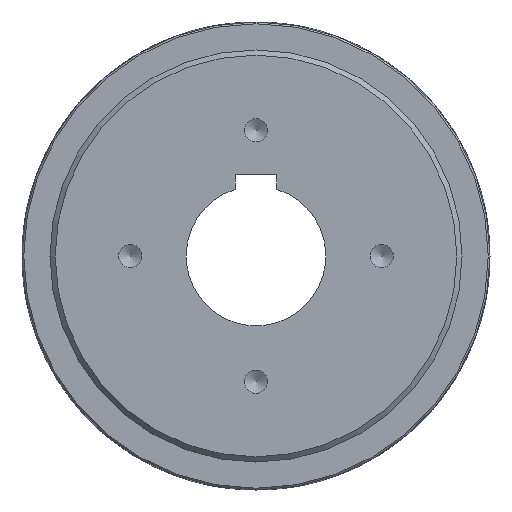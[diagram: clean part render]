
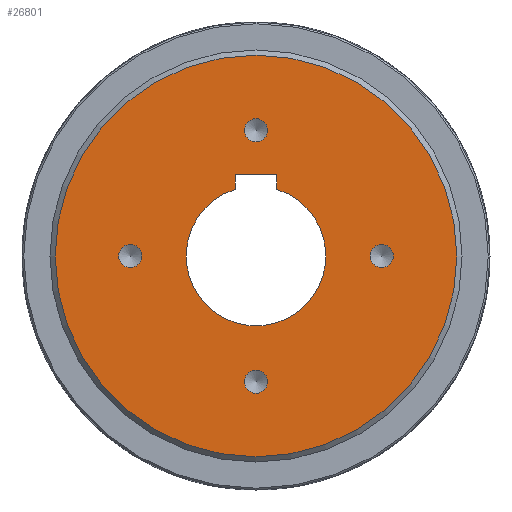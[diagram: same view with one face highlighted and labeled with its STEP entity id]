
A CAD part, left-side view. The second image highlights one B-rep face of the part: STEP entity #26801.
In plain terms, the highlighted planar face has unit normal (-1, 0, 0).
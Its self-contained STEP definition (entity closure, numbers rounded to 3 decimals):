
#1825=FACE_BOUND('',#7944,.T.);
#1826=FACE_BOUND('',#7945,.T.);
#1827=FACE_BOUND('',#7946,.T.);
#1828=FACE_BOUND('',#7947,.T.);
#1829=FACE_BOUND('',#7948,.T.);
#2781=LINE('',#44697,#4387);
#2784=LINE('',#44703,#4390);
#2788=LINE('',#44713,#4394);
#4387=VECTOR('',#35767,10.);
#4390=VECTOR('',#35772,10.);
#4394=VECTOR('',#35784,10.);
#6505=FACE_OUTER_BOUND('',#7943,.T.);
#7943=EDGE_LOOP('',(#23991));
#7944=EDGE_LOOP('',(#23992,#23993,#23994,#23995));
#7945=EDGE_LOOP('',(#23996,#23997));
#7946=EDGE_LOOP('',(#23998,#23999));
#7947=EDGE_LOOP('',(#24000,#24001));
#7948=EDGE_LOOP('',(#24002,#24003));
#8412=CIRCLE('',#28885,20.);
#8757=CIRCLE('',#30753,57.5);
#8758=CIRCLE('',#30755,3.324);
#8759=CIRCLE('',#30756,3.324);
#8760=CIRCLE('',#30757,3.324);
#8761=CIRCLE('',#30758,3.324);
#8762=CIRCLE('',#30759,3.324);
#8763=CIRCLE('',#30760,3.324);
#8764=CIRCLE('',#30761,3.324);
#8765=CIRCLE('',#30762,3.324);
#10235=VERTEX_POINT('',#44694);
#10236=VERTEX_POINT('',#44696);
#10238=VERTEX_POINT('',#44702);
#10240=VERTEX_POINT('',#44708);
#11528=VERTEX_POINT('',#48809);
#11529=VERTEX_POINT('',#48813);
#11530=VERTEX_POINT('',#48814);
#11531=VERTEX_POINT('',#48817);
#11532=VERTEX_POINT('',#48818);
#11533=VERTEX_POINT('',#48821);
#11534=VERTEX_POINT('',#48822);
#11535=VERTEX_POINT('',#48825);
#11536=VERTEX_POINT('',#48826);
#13748=EDGE_CURVE('',#10236,#10235,#2781,.T.);
#13751=EDGE_CURVE('',#10238,#10236,#2784,.T.);
#13754=EDGE_CURVE('',#10240,#10238,#8412,.T.);
#13757=EDGE_CURVE('',#10235,#10240,#2788,.T.);
#15695=EDGE_CURVE('',#11528,#11528,#8757,.T.);
#15696=EDGE_CURVE('',#11529,#11530,#8758,.T.);
#15697=EDGE_CURVE('',#11530,#11529,#8759,.T.);
#15698=EDGE_CURVE('',#11531,#11532,#8760,.T.);
#15699=EDGE_CURVE('',#11532,#11531,#8761,.T.);
#15700=EDGE_CURVE('',#11533,#11534,#8762,.T.);
#15701=EDGE_CURVE('',#11534,#11533,#8763,.T.);
#15702=EDGE_CURVE('',#11535,#11536,#8764,.T.);
#15703=EDGE_CURVE('',#11536,#11535,#8765,.T.);
#23991=ORIENTED_EDGE('',*,*,#15695,.F.);
#23992=ORIENTED_EDGE('',*,*,#13754,.T.);
#23993=ORIENTED_EDGE('',*,*,#13751,.T.);
#23994=ORIENTED_EDGE('',*,*,#13748,.T.);
#23995=ORIENTED_EDGE('',*,*,#13757,.T.);
#23996=ORIENTED_EDGE('',*,*,#15696,.T.);
#23997=ORIENTED_EDGE('',*,*,#15697,.T.);
#23998=ORIENTED_EDGE('',*,*,#15698,.T.);
#23999=ORIENTED_EDGE('',*,*,#15699,.T.);
#24000=ORIENTED_EDGE('',*,*,#15700,.T.);
#24001=ORIENTED_EDGE('',*,*,#15701,.T.);
#24002=ORIENTED_EDGE('',*,*,#15702,.T.);
#24003=ORIENTED_EDGE('',*,*,#15703,.T.);
#25402=PLANE('',#30754);
#26801=ADVANCED_FACE('',(#6505,#1825,#1826,#1827,#1828,#1829),#25402,.T.);
#28885=AXIS2_PLACEMENT_3D('',#44709,#35778,#35779);
#30753=AXIS2_PLACEMENT_3D('',#48811,#40220,#40221);
#30754=AXIS2_PLACEMENT_3D('',#48812,#40222,#40223);
#30755=AXIS2_PLACEMENT_3D('',#48815,#40224,#40225);
#30756=AXIS2_PLACEMENT_3D('',#48816,#40226,#40227);
#30757=AXIS2_PLACEMENT_3D('',#48819,#40228,#40229);
#30758=AXIS2_PLACEMENT_3D('',#48820,#40230,#40231);
#30759=AXIS2_PLACEMENT_3D('',#48823,#40232,#40233);
#30760=AXIS2_PLACEMENT_3D('',#48824,#40234,#40235);
#30761=AXIS2_PLACEMENT_3D('',#48827,#40236,#40237);
#30762=AXIS2_PLACEMENT_3D('',#48828,#40238,#40239);
#35767=DIRECTION('',(0.,-1.,0.));
#35772=DIRECTION('',(0.,0.,1.));
#35778=DIRECTION('center_axis',(1.,0.,0.));
#35779=DIRECTION('ref_axis',(0.,0.,-1.));
#35784=DIRECTION('',(0.,0.,-1.));
#40220=DIRECTION('center_axis',(1.,0.,0.));
#40221=DIRECTION('ref_axis',(0.,-1.,0.));
#40222=DIRECTION('center_axis',(-1.,0.,0.));
#40223=DIRECTION('ref_axis',(0.,0.,1.));
#40224=DIRECTION('center_axis',(1.,0.,0.));
#40225=DIRECTION('ref_axis',(0.,0.,1.));
#40226=DIRECTION('center_axis',(1.,0.,0.));
#40227=DIRECTION('ref_axis',(0.,0.,1.));
#40228=DIRECTION('center_axis',(1.,0.,0.));
#40229=DIRECTION('ref_axis',(0.,0.,1.));
#40230=DIRECTION('center_axis',(1.,0.,0.));
#40231=DIRECTION('ref_axis',(0.,0.,1.));
#40232=DIRECTION('center_axis',(1.,0.,0.));
#40233=DIRECTION('ref_axis',(0.,0.,1.));
#40234=DIRECTION('center_axis',(1.,0.,0.));
#40235=DIRECTION('ref_axis',(0.,0.,1.));
#40236=DIRECTION('center_axis',(1.,0.,0.));
#40237=DIRECTION('ref_axis',(0.,0.,1.));
#40238=DIRECTION('center_axis',(1.,0.,0.));
#40239=DIRECTION('ref_axis',(0.,0.,1.));
#44694=CARTESIAN_POINT('',(-14.5,-6.,23.3));
#44696=CARTESIAN_POINT('',(-14.5,6.,23.3));
#44697=CARTESIAN_POINT('',(-14.5,32.5,23.3));
#44702=CARTESIAN_POINT('',(-14.5,6.,19.079));
#44703=CARTESIAN_POINT('',(-14.5,6.,8.35));
#44708=CARTESIAN_POINT('',(-14.5,-6.,19.079));
#44709=CARTESIAN_POINT('Origin',(-14.5,0.,0.));
#44713=CARTESIAN_POINT('',(-14.5,-6.,11.65));
#48809=CARTESIAN_POINT('',(-14.5,57.5,0.));
#48811=CARTESIAN_POINT('Origin',(-14.5,0.,0.));
#48812=CARTESIAN_POINT('Origin',(-14.5,59.,0.));
#48813=CARTESIAN_POINT('',(-14.5,0.,39.324));
#48814=CARTESIAN_POINT('',(-14.5,0.,32.677));
#48815=CARTESIAN_POINT('Origin',(-14.5,0.,36.));
#48816=CARTESIAN_POINT('Origin',(-14.5,0.,36.));
#48817=CARTESIAN_POINT('',(-14.5,0.,-32.677));
#48818=CARTESIAN_POINT('',(-14.5,0.,-39.324));
#48819=CARTESIAN_POINT('Origin',(-14.5,0.,-36.));
#48820=CARTESIAN_POINT('Origin',(-14.5,0.,-36.));
#48821=CARTESIAN_POINT('',(-14.5,36.,3.324));
#48822=CARTESIAN_POINT('',(-14.5,36.,-3.324));
#48823=CARTESIAN_POINT('Origin',(-14.5,36.,0.));
#48824=CARTESIAN_POINT('Origin',(-14.5,36.,0.));
#48825=CARTESIAN_POINT('',(-14.5,-36.,3.324));
#48826=CARTESIAN_POINT('',(-14.5,-36.,-3.324));
#48827=CARTESIAN_POINT('Origin',(-14.5,-36.,0.));
#48828=CARTESIAN_POINT('Origin',(-14.5,-36.,0.));
